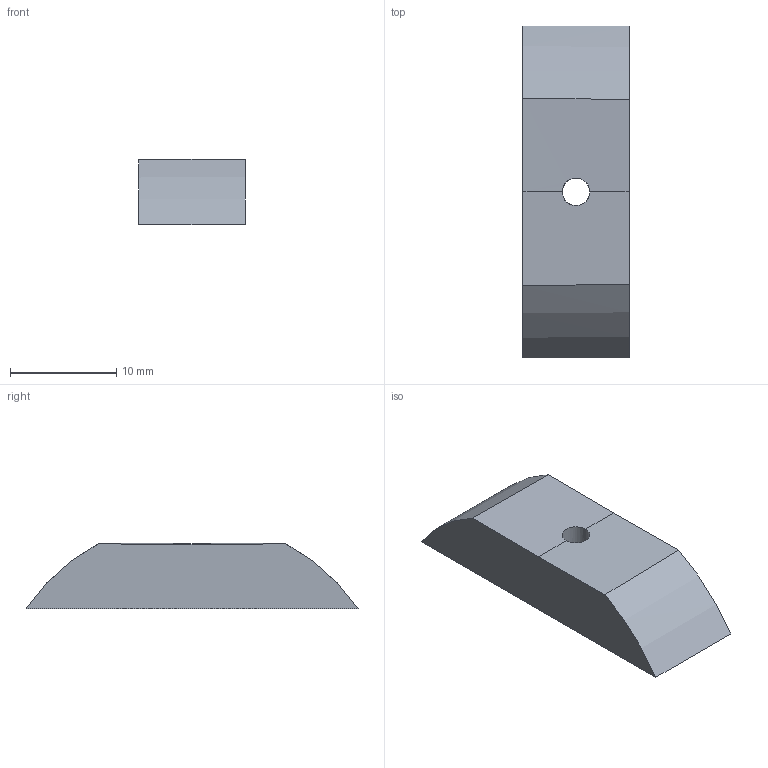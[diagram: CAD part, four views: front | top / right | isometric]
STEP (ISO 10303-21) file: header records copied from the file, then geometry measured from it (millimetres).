
FILE_DESCRIPTION(('SkyG Speed 90B - revision C6B-5 - 2026-10-08','NB2-wing-nut-bar-rear'),'2;1');
FILE_NAME('NB2-wing-nut-bar-rear_C6B-5','2026-10-08T10:12:28',('Author'),( 'Open CASCADE'),'Open CASCADE STEP processor 7.9','Open CASCADE 7.9' ,'Unknown');
FILE_SCHEMA(('AUTOMOTIVE_DESIGN { 1 0 10303 214 1 1 1 1 }'));
Length unit declared in the file: millimetre
Products named in the file (1): NB2-wing-nut-bar-rear C6B-5
Bounding box: 10 x 31.31 x 6.22 mm (x, y, z)
Volume: 1450.2 mm3; surface area: 1077.7 mm2
Topology: 1 solids, 1 shells, 15 faces, 38 edges, 25 vertices
Faces by surface type: plane 10, cylinder 3, bspline 2
Full cylindrical faces by diameter (mm): 2.6 x1
Entity records: 2109 total; most frequent: CARTESIAN_POINT 1401, DIRECTION 103, ORIENTED_EDGE 76, PCURVE 76, DEFINITIONAL_REPRESENTATION 76, LINE 60, VECTOR 60, B_SPLINE_CURVE_WITH_KNOTS 44
